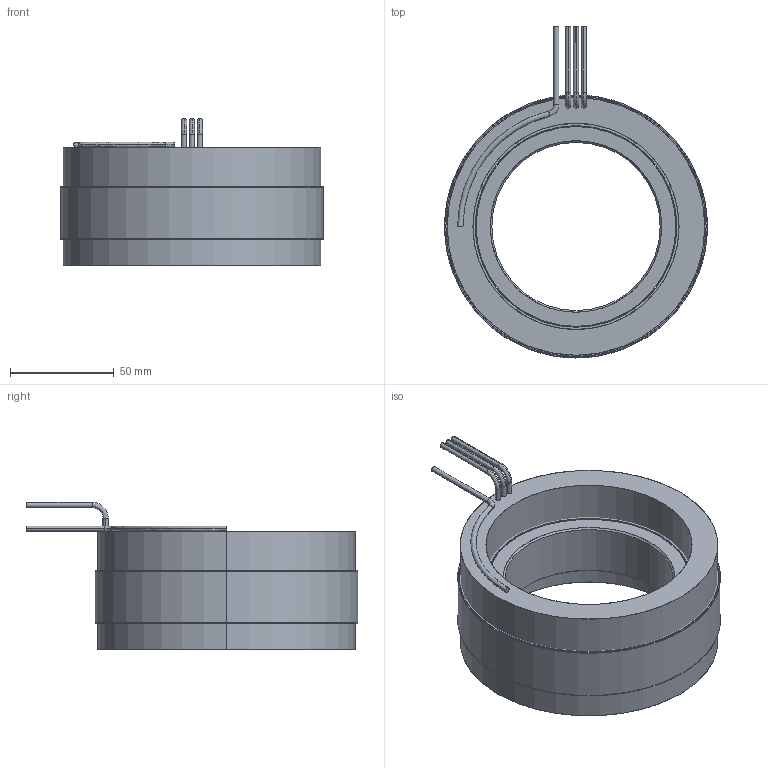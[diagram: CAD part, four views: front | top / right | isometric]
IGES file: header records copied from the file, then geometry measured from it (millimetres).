
Start section: SolidWorks IGES file using analytic representation for surfaces
Global section: file name: \\fs01.aveox.local\user documents\eng\My Documents\6100398-XX STATOR AND ROTOR SET, UT-5000-24P4, SENSORLESS TABULATED\6100398-02.IGS; native system: SolidWorks 2016; preprocessor: SolidWorks 2016; author: eng; date: 201226.190555; units: inch
Bounding box: 127 x 160.29 x 71.12 mm (x, y, z)
Surface area: 138902.2 mm2 (no closed solid volume)
Topology: 0 solids, 0 shells, 75 faces, 2236 edges, 2236 vertices
Faces by surface type: revolution 46, bspline 29
